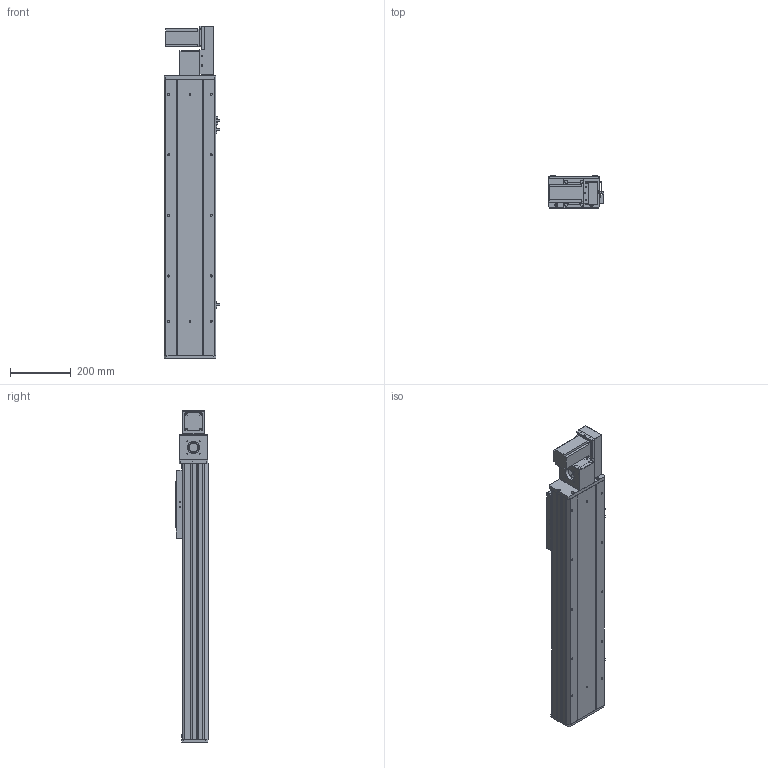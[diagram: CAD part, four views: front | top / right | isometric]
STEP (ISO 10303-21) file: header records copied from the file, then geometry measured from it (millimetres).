
FILE_DESCRIPTION (( 'STEP AP203' ), '1' );
FILE_NAME ('Y170CB-D105-S600-BR-P400W.STEP', '2020-02-19T08:47:06', ( '微软用户' ), ( '微软中国' ), 'SwSTEP 2.0', 'SolidWorks 2017', '' );
FILE_SCHEMA (( 'CONFIG_CONTROL_DESIGN' ));
Length unit declared in the file: millimetre
Products named in the file (17): 70B喘謫眊----; B-源倛裔啣; 17B-耜蚾蟀諉啣----; 0B-萇儂楊擘啣; san松下电机400不带刹车----; Y70俋欶BR----; 70CB-掛极-; --70CB --喘謫眊楊擘啣-; 70CB-耜裔啣-; 70C--詩湍揤踡え-; 70CB--耜裔; 70C-雄赽釱-奻-; 0C--雄赽釱俋欶-170; 70CB-詩湍--; Y100-135俋离換覜ん--; Y170CB-陔俋离換覜結え---; Y170CB-D105-S600-BR-P400W
Assembly tree (20 placements, depth 2):
  Y170CB-D105-S600-BR-P400W
    70B喘謫眊----
    B-源倛裔啣
    17B-耜蚾蟀諉啣----
    0B-萇儂楊擘啣
    san松下电机400不带刹车----
    Y70俋欶BR----
    70CB-掛极-
    --70CB --喘謫眊楊擘啣-
    70CB-耜裔啣-  x2
    70C--詩湍揤踡え-  x2
    70CB--耜裔
    70C-雄赽釱-奻-
    0C--雄赽釱俋欶-170
    70CB-詩湍--
    Y100-135俋离換覜ん--  x3
    Y170CB-陔俋离換覜結え---
Bounding box: 183.5 x 107 x 1097 mm (x, y, z)
Volume: 4957460.2 mm3; surface area: 1760242.4 mm2
Topology: 20 solids, 20 shells, 977 faces, 2609 edges, 1730 vertices
Faces by surface type: cylinder 491, plane 462, cone 24
Entity records: 30875 total; most frequent: CARTESIAN_POINT 5661, DIRECTION 5020, ORIENTED_EDGE 4700, EDGE_CURVE 2350, AXIS2_PLACEMENT_3D 1825, VERTEX_POINT 1560, VECTOR 1370, LINE 1370
